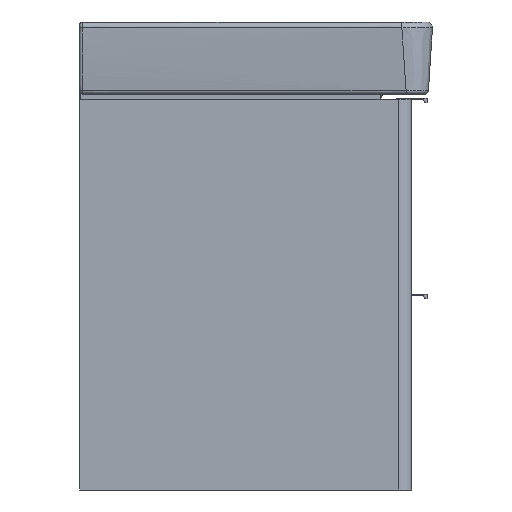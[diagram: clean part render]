
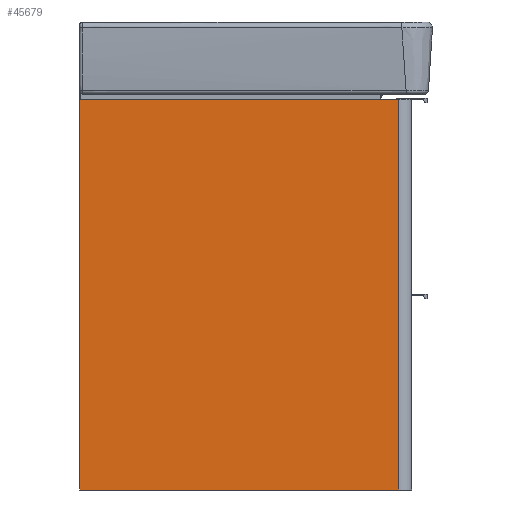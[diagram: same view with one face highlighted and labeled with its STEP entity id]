
A CAD part, left-side view. The second image highlights one B-rep face of the part: STEP entity #45679.
In plain terms, the highlighted planar face has unit normal (-1, 0, 0).
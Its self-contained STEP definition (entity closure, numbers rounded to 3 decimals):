
#3399=PLANE('',#51659);
#7740=LINE('',#260239,#11710);
#7742=LINE('',#260245,#11712);
#7746=LINE('',#260253,#11716);
#7747=LINE('',#260254,#11717);
#11710=VECTOR('',#62831,10.);
#11712=VECTOR('',#62837,10.);
#11716=VECTOR('',#62843,10.);
#11717=VECTOR('',#62844,10.);
#13940=FACE_OUTER_BOUND('',#16397,.T.);
#16397=EDGE_LOOP('',(#42992,#42993,#42994,#42995));
#25240=VERTEX_POINT('',#260236);
#25241=VERTEX_POINT('',#260238);
#25243=VERTEX_POINT('',#260244);
#25246=VERTEX_POINT('',#260252);
#32303=EDGE_CURVE('',#25240,#25241,#7740,.T.);
#32306=EDGE_CURVE('',#25241,#25243,#7742,.T.);
#32310=EDGE_CURVE('',#25246,#25240,#7746,.T.);
#32311=EDGE_CURVE('',#25243,#25246,#7747,.T.);
#42992=ORIENTED_EDGE('',*,*,#32303,.F.);
#42993=ORIENTED_EDGE('',*,*,#32310,.F.);
#42994=ORIENTED_EDGE('',*,*,#32311,.F.);
#42995=ORIENTED_EDGE('',*,*,#32306,.F.);
#45679=ADVANCED_FACE('',(#13940),#3399,.T.);
#51659=AXIS2_PLACEMENT_3D('',#260251,#62841,#62842);
#62831=DIRECTION('',(0.,0.,-1.));
#62837=DIRECTION('',(0.,1.,0.));
#62841=DIRECTION('center_axis',(-1.,0.,0.));
#62842=DIRECTION('ref_axis',(0.,-1.,0.));
#62843=DIRECTION('',(0.,-1.,0.));
#62844=DIRECTION('',(0.,0.,1.));
#260236=CARTESIAN_POINT('',(-307.5,-202.,2544.91));
#260238=CARTESIAN_POINT('',(-307.5,-202.,2029.91));
#260239=CARTESIAN_POINT('',(-307.5,-202.,2029.91));
#260244=CARTESIAN_POINT('',(-307.5,219.,2029.91));
#260245=CARTESIAN_POINT('',(-307.5,-219.,2029.91));
#260251=CARTESIAN_POINT('Origin',(-307.5,219.,2029.91));
#260252=CARTESIAN_POINT('',(-307.5,219.,2544.91));
#260253=CARTESIAN_POINT('',(-307.5,-219.,2544.91));
#260254=CARTESIAN_POINT('',(-307.5,219.,2029.91));
